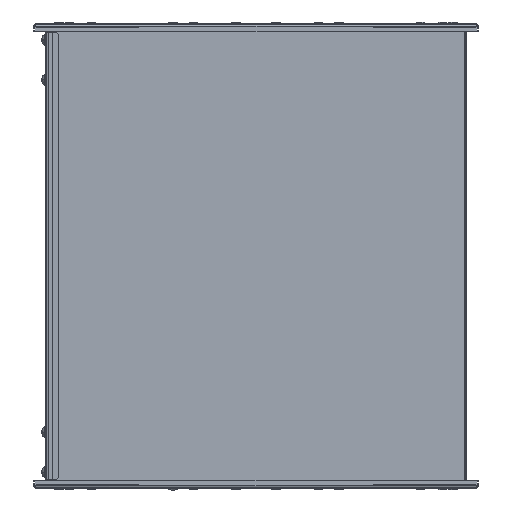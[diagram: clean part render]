
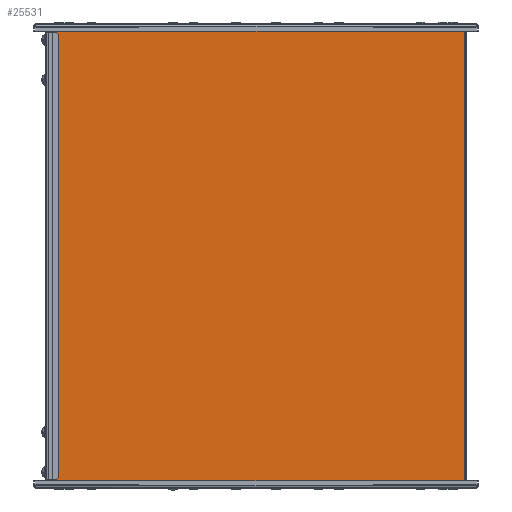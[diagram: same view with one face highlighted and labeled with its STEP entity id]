
A CAD part, left-side view. The second image highlights one B-rep face of the part: STEP entity #25531.
In plain terms, the highlighted planar face has unit normal (-1, 0, 0).
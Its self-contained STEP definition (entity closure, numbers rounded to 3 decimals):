
#383 = CARTESIAN_POINT ( 'NONE',  ( -300.8, 214.6, -173.7 ) ) ;
#449 = DIRECTION ( 'NONE',  ( 0., -1., 0. ) ) ;
#490 = EDGE_CURVE ( 'NONE', #6818, #6804, #15821, .T. ) ;
#496 = EDGE_CURVE ( 'NONE', #6456, #6804, #16050, .T. ) ;
#498 = CARTESIAN_POINT ( 'NONE',  ( -300.8, 1.2, 0. ) ) ;
#542 = EDGE_CURVE ( 'NONE', #7183, #6818, #16368, .T. ) ;
#556 = EDGE_CURVE ( 'NONE', #6778, #6827, #16312, .T. ) ;
#719 = DIRECTION ( 'NONE',  ( 0., 0., -1. ) ) ;
#774 = EDGE_CURVE ( 'NONE', #12516, #7062, #16207, .T. ) ;
#776 = EDGE_CURVE ( 'NONE', #7046, #6781, #17028, .T. ) ;
#778 = EDGE_CURVE ( 'NONE', #6778, #6781, #16479, .T. ) ;
#782 = EDGE_CURVE ( 'NONE', #6825, #6827, #16611, .T. ) ;
#784 = EDGE_CURVE ( 'NONE', #6825, #7061, #16663, .T. ) ;
#827 = EDGE_CURVE ( 'NONE', #12516, #7183, #16614, .T. ) ;
#940 = CARTESIAN_POINT ( 'NONE',  ( -300.8, 314., 174.929 ) ) ;
#1076 = CARTESIAN_POINT ( 'NONE',  ( -300.8, 315.129, -173.8 ) ) ;
#1132 = DIRECTION ( 'NONE',  ( 0., 0., -1. ) ) ;
#1359 = DIRECTION ( 'NONE',  ( 0., 0., -1. ) ) ;
#2926 = PLANE ( 'NONE',  #7620 ) ;
#2969 = DIRECTION ( 'NONE',  ( 1., 0., 0. ) ) ;
#2971 = DIRECTION ( 'NONE',  ( 0., 1., 0. ) ) ;
#3063 = CARTESIAN_POINT ( 'NONE',  ( -300.8, 0., 0. ) ) ;
#4446 = CARTESIAN_POINT ( 'NONE',  ( -300.8, 314., -173.8 ) ) ;
#4468 = CARTESIAN_POINT ( 'NONE',  ( -300.8, 214.6, -173.8 ) ) ;
#4503 = CARTESIAN_POINT ( 'NONE',  ( -300.8, 104.2, 173.8 ) ) ;
#4508 = CARTESIAN_POINT ( 'NONE',  ( -300.8, 1.2, 173.8 ) ) ;
#4530 = CARTESIAN_POINT ( 'NONE',  ( -300.8, 1.2, -173.8 ) ) ;
#4534 = CARTESIAN_POINT ( 'NONE',  ( -300.8, 104.2, -173.8 ) ) ;
#4784 = CARTESIAN_POINT ( 'NONE',  ( -300.8, 104.2, 173.7 ) ) ;
#4788 = CARTESIAN_POINT ( 'NONE',  ( -300.8, 104.2, -173.7 ) ) ;
#4789 = CARTESIAN_POINT ( 'NONE',  ( -300.8, 214.6, 173.7 ) ) ;
#5023 = CARTESIAN_POINT ( 'NONE',  ( -300.8, 314., 173.8 ) ) ;
#5632 = EDGE_LOOP ( 'NONE', ( #9271, #9111, #9320, #9406, #9364, #9347, #9112, #9503, #9453, #9817, #9491, #9015 ) ) ;
#6456 = VERTEX_POINT ( 'NONE', #10358 ) ;
#6778 = VERTEX_POINT ( 'NONE', #4508 ) ;
#6781 = VERTEX_POINT ( 'NONE', #4503 ) ;
#6804 = VERTEX_POINT ( 'NONE', #4468 ) ;
#6818 = VERTEX_POINT ( 'NONE', #4446 ) ;
#6825 = VERTEX_POINT ( 'NONE', #4534 ) ;
#6827 = VERTEX_POINT ( 'NONE', #4530 ) ;
#7046 = VERTEX_POINT ( 'NONE', #4784 ) ;
#7061 = VERTEX_POINT ( 'NONE', #4788 ) ;
#7062 = VERTEX_POINT ( 'NONE', #4789 ) ;
#7183 = VERTEX_POINT ( 'NONE', #5023 ) ;
#7620 = AXIS2_PLACEMENT_3D ( 'NONE', #3063, #2969, #2971 ) ;
#9015 = ORIENTED_EDGE ( 'NONE', *, *, #11739, .F. ) ;
#9111 = ORIENTED_EDGE ( 'NONE', *, *, #782, .T. ) ;
#9112 = ORIENTED_EDGE ( 'NONE', *, *, #774, .F. ) ;
#9271 = ORIENTED_EDGE ( 'NONE', *, *, #784, .F. ) ;
#9320 = ORIENTED_EDGE ( 'NONE', *, *, #556, .F. ) ;
#9347 = ORIENTED_EDGE ( 'NONE', *, *, #12028, .F. ) ;
#9364 = ORIENTED_EDGE ( 'NONE', *, *, #776, .F. ) ;
#9406 = ORIENTED_EDGE ( 'NONE', *, *, #778, .T. ) ;
#9453 = ORIENTED_EDGE ( 'NONE', *, *, #542, .T. ) ;
#9491 = ORIENTED_EDGE ( 'NONE', *, *, #496, .F. ) ;
#9503 = ORIENTED_EDGE ( 'NONE', *, *, #827, .T. ) ;
#9817 = ORIENTED_EDGE ( 'NONE', *, *, #490, .T. ) ;
#10358 = CARTESIAN_POINT ( 'NONE',  ( -300.8, 214.6, -173.7 ) ) ;
#11739 = EDGE_CURVE ( 'NONE', #7061, #6456, #19988, .T. ) ;
#12028 = EDGE_CURVE ( 'NONE', #7062, #7046, #19476, .T. ) ;
#12516 = VERTEX_POINT ( 'NONE', #17570 ) ;
#14643 = DIRECTION ( 'NONE',  ( 0., 1., 0. ) ) ;
#14842 = CARTESIAN_POINT ( 'NONE',  ( -300.8, 104.2, -173.7 ) ) ;
#15821 = LINE ( 'NONE', #1076, #16381 ) ;
#16050 = LINE ( 'NONE', #383, #16373 ) ;
#16207 = LINE ( 'NONE', #19022, #17035 ) ;
#16312 = LINE ( 'NONE', #498, #16597 ) ;
#16342 = VECTOR ( 'NONE', #1359, 1000. ) ;
#16368 = LINE ( 'NONE', #940, #16342 ) ;
#16373 = VECTOR ( 'NONE', #719, 1000. ) ;
#16381 = VECTOR ( 'NONE', #449, 1000. ) ;
#16400 = VECTOR ( 'NONE', #19060, 1000. ) ;
#16412 = VECTOR ( 'NONE', #18665, 1000. ) ;
#16479 = LINE ( 'NONE', #18664, #16586 ) ;
#16586 = VECTOR ( 'NONE', #18959, 1000. ) ;
#16597 = VECTOR ( 'NONE', #1132, 1000. ) ;
#16611 = LINE ( 'NONE', #18672, #16664 ) ;
#16614 = LINE ( 'NONE', #18960, #16400 ) ;
#16663 = LINE ( 'NONE', #18938, #16772 ) ;
#16664 = VECTOR ( 'NONE', #18679, 1000. ) ;
#16772 = VECTOR ( 'NONE', #18935, 1000. ) ;
#16963 = DIRECTION ( 'NONE',  ( 0., -1., 0. ) ) ;
#17028 = LINE ( 'NONE', #18670, #16412 ) ;
#17035 = VECTOR ( 'NONE', #18376, 1000. ) ;
#17198 = CARTESIAN_POINT ( 'NONE',  ( -300.8, 214.6, 173.7 ) ) ;
#17570 = CARTESIAN_POINT ( 'NONE',  ( -300.8, 214.6, 173.8 ) ) ;
#18376 = DIRECTION ( 'NONE',  ( 0., 0., -1. ) ) ;
#18664 = CARTESIAN_POINT ( 'NONE',  ( -300.8, 1.2, 173.8 ) ) ;
#18665 = DIRECTION ( 'NONE',  ( 0., 0., 1. ) ) ;
#18670 = CARTESIAN_POINT ( 'NONE',  ( -300.8, 104.2, 173.7 ) ) ;
#18672 = CARTESIAN_POINT ( 'NONE',  ( -300.8, 315.129, -173.8 ) ) ;
#18679 = DIRECTION ( 'NONE',  ( 0., -1., 0. ) ) ;
#18935 = DIRECTION ( 'NONE',  ( 0., 0., 1. ) ) ;
#18938 = CARTESIAN_POINT ( 'NONE',  ( -300.8, 104.2, -173.8 ) ) ;
#18959 = DIRECTION ( 'NONE',  ( 0., 1., 0. ) ) ;
#18960 = CARTESIAN_POINT ( 'NONE',  ( -300.8, 1.2, 173.8 ) ) ;
#19022 = CARTESIAN_POINT ( 'NONE',  ( -300.8, 214.6, 173.8 ) ) ;
#19060 = DIRECTION ( 'NONE',  ( 0., 1., 0. ) ) ;
#19397 = VECTOR ( 'NONE', #16963, 1000. ) ;
#19476 = LINE ( 'NONE', #17198, #19397 ) ;
#19988 = LINE ( 'NONE', #14842, #19993 ) ;
#19993 = VECTOR ( 'NONE', #14643, 1000. ) ;
#22424 = FACE_OUTER_BOUND ( 'NONE', #5632, .T. ) ;
#25531 = ADVANCED_FACE ( 'NONE', ( #22424 ), #2926, .F. ) ;
